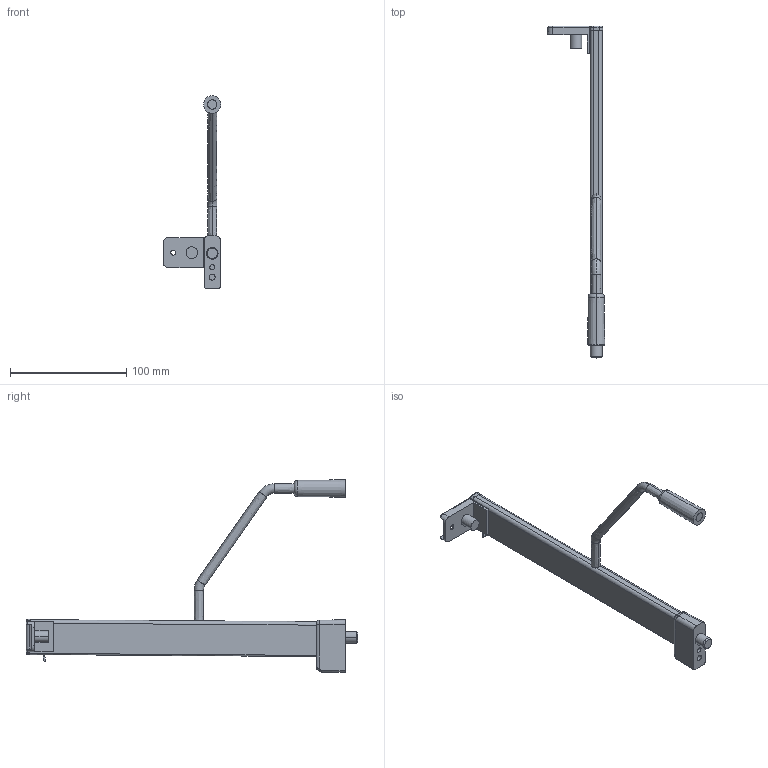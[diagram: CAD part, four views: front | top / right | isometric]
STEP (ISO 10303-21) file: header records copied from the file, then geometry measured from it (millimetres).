
FILE_DESCRIPTION (( 'STEP AP214' ), '1' );
FILE_NAME ('_2S_REL_7606_NL270_RE_Frontstütze.step', '2010-07-01T14:41:50', ( 'grass' ), ( '' ), 'SwSTEP 2.0', 'SolidWorks 2009', '' );
FILE_SCHEMA (( 'AUTOMOTIVE_DESIGN' ));
Length unit declared in the file: millimetre
Products named in the file (1): _2S_REL_7606_NL270_RE_Frontstütze
Bounding box: 49.75 x 285.5 x 165.5 mm (x, y, z)
Volume: 112979.5 mm3; surface area: 33557.3 mm2
Topology: 2 solids, 2 shells, 142 faces, 341 edges, 207 vertices
Faces by surface type: cylinder 60, plane 46, bspline 16, torus 12, cone 6, sphere 2
Entity records: 5380 total; most frequent: CARTESIAN_POINT 2176, ORIENTED_EDGE 678, DIRECTION 655, EDGE_CURVE 339, AXIS2_PLACEMENT_3D 251, VERTEX_POINT 207, LINE 153, VECTOR 153
